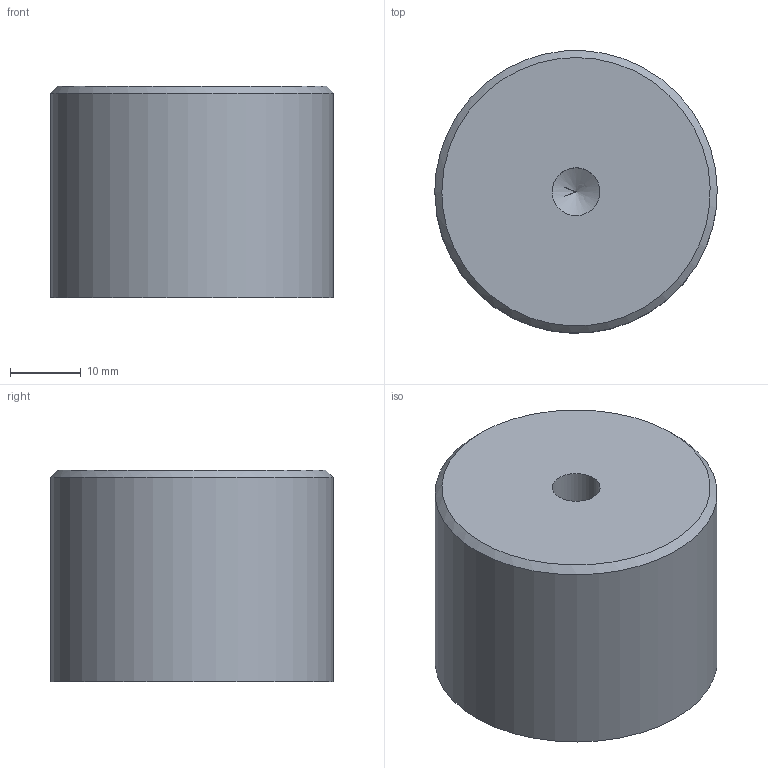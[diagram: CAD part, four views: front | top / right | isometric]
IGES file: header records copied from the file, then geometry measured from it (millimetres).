
Global section: file name: PMH-1-40x30; native system: unknown; preprocessor: unknown; author: unknown; organization: unknown; date: 20221128.164959; units: millimetre
Bounding box: 39.99 x 39.96 x 30 mm (x, y, z)
Volume: 37359.9 mm3; surface area: 6397.6 mm2
Topology: 1 solids, 1 shells, 32 faces, 73 edges, 48 vertices
Faces by surface type: bspline 32
